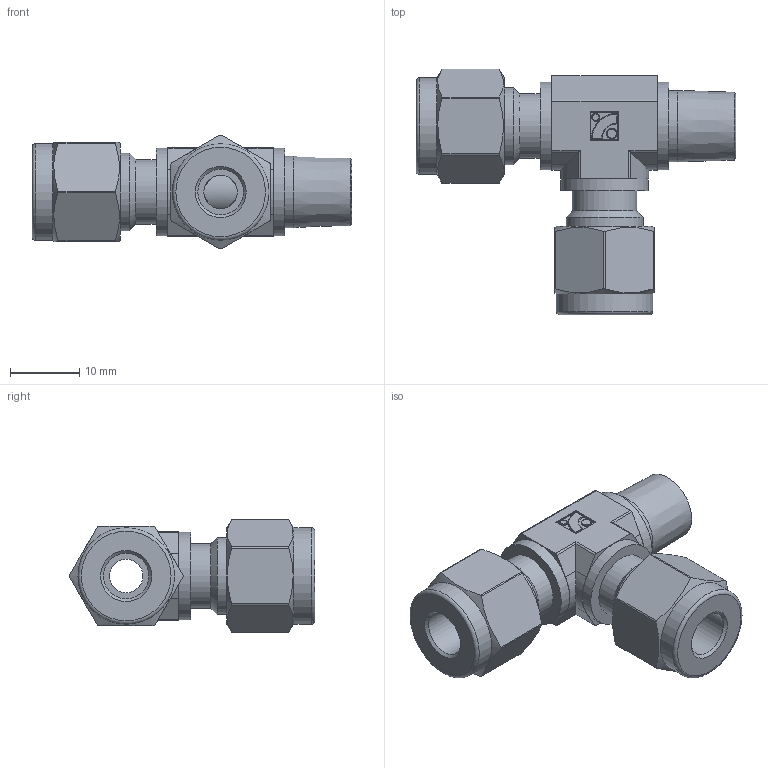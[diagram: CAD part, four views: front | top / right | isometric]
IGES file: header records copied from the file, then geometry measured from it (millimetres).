
Global section: file name: No Iges File Name specified; native system: Autodesk Inventor 2012; preprocessor: AutoDesk Inventor Iges Exporter R2012; author: 硅己绕,, ; organization: 11; date: 20150815.154743; units: millimetre
Bounding box: 46.04 x 35.34 x 16.4 mm (x, y, z)
Volume: 7124.6 mm3; surface area: 4601 mm2
Topology: 1 solids, 1 shells, 150 faces, 341 edges, 205 vertices
Faces by surface type: cylinder 51, plane 47, revolution 30, torus 10, cone 8, sphere 4
Full cylindrical faces by diameter (mm): 1.08 x1, 1.44 x1, 9.3 x2, 10.28 x1, 11.112 x2, 12.6 x3, 13.9 x2
